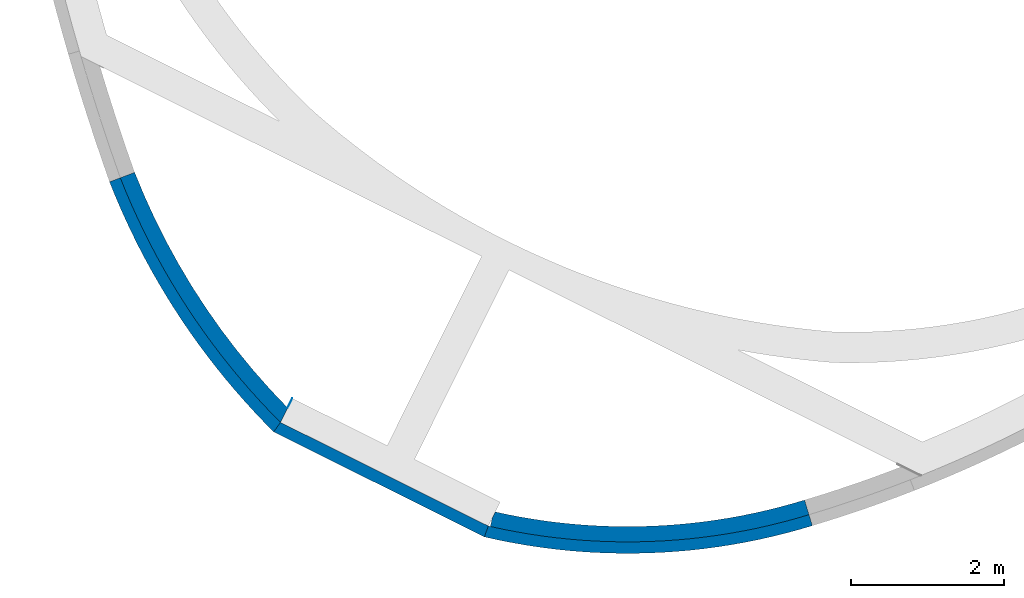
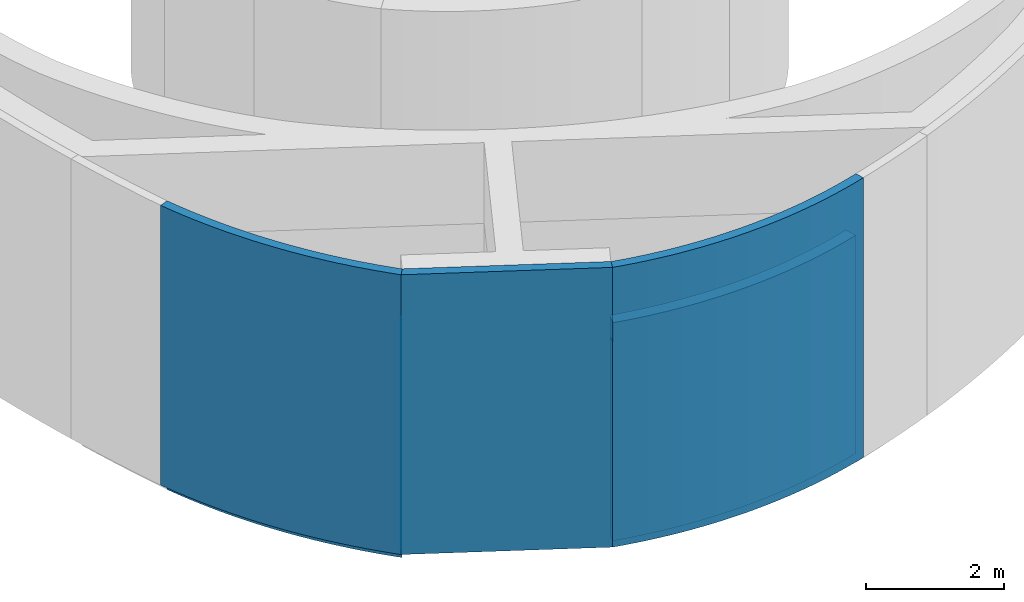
# One storey, part 3 of 47: 6 walls.
"""IFC2X3 building model written with IfcOpenShell, lengths in metres."""

from ifc_helpers import new_model, entity, si_unit, converted_unit, derived_unit, direction, frame, frame_2d, origin, place, context, subcontext, project, spatial, polyline, circle_curve, parameter, trimmed, segment, composite_curve, outline, extrude, clip, bounded_halfspace, material, layer, layer_set, layer_usage, type_object, element, save


model = new_model("IFC2X3")

# Units and contexts
model_context = context("Model", 3, precision=1e-05, world=origin(), true_north=direction((0.894925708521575, 0.446215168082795)))
context_of_model = context(None, 3, precision=1e-05, world=origin(), true_north=direction((0.894925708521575, 0.446215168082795)))
body_context = subcontext(model_context, "Body", "Model", "MODEL_VIEW")
ifc_project = project(units=[si_unit("LENGTHUNIT", "METRE"), si_unit("AREAUNIT", "SQUARE_METRE"), si_unit("VOLUMEUNIT", "CUBIC_METRE"), converted_unit("PLANEANGLEUNIT", "DEGREE", entity("IfcRatioMeasure", 0.0174532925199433), si_unit("PLANEANGLEUNIT", "RADIAN"), dimensions=[0, 0, 0, 0, 0, 0, 0]), si_unit("MASSUNIT", "GRAM", prefix="KILO"), si_unit("TIMEUNIT", "SECOND"), si_unit("FREQUENCYUNIT", "HERTZ"), si_unit("THERMODYNAMICTEMPERATUREUNIT", "DEGREE_CELSIUS"), derived_unit("THERMALTRANSMITTANCEUNIT", [(si_unit("MASSUNIT", "GRAM", prefix="KILO"), 1), (si_unit("THERMODYNAMICTEMPERATUREUNIT", "KELVIN"), -1), (si_unit("TIMEUNIT", "SECOND"), -3)]), derived_unit("VOLUMETRICFLOWRATEUNIT", [(si_unit("LENGTHUNIT", "METRE"), 3), (si_unit("TIMEUNIT", "SECOND"), -1)]), si_unit("ELECTRICCURRENTUNIT", "AMPERE"), si_unit("ELECTRICVOLTAGEUNIT", "VOLT"), si_unit("POWERUNIT", "WATT"), si_unit("FORCEUNIT", "NEWTON", prefix="KILO"), si_unit("ILLUMINANCEUNIT", "LUX"), si_unit("LUMINOUSFLUXUNIT", "LUMEN"), si_unit("LUMINOUSINTENSITYUNIT", "CANDELA"), si_unit("PRESSUREUNIT", "PASCAL")], contexts=[model_context, context_of_model])

# Site, building, storey
site_placement = place(None, frame((218.228324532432, 584.720189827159, 0.0), z_axis=(0.0, 0.0, 1.0), x_axis=(0.446215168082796, 0.894925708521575, 0.0)))
site = spatial("IfcSite", under=ifc_project, at=site_placement, Name="Default", CompositionType="ELEMENT")
building_placement = place(site_placement, origin())
building = spatial("IfcBuilding", under=site, at=building_placement, CompositionType="ELEMENT")
storey_placement = place(building_placement, frame((0.0, 0.0, 4.69)))
storey = spatial("IfcBuildingStorey", under=building, at=storey_placement, Name="1 - Piano Primo", CompositionType="ELEMENT", Elevation=4.69)

# Walls
ifc_material_1 = material(Name="Sabbia e Calcestruzzo")
ifc_layer_1 = layer(ifc_material_1, 0.2)
ifc_layer_set_1 = layer_set([ifc_layer_1], Name="Muro di base:Blocchetti - 20 cm")
ifc_layer_usage_1 = layer_usage(ifc_layer_set_1, "AXIS2", "NEGATIVE", 0.1)
wall_type_1 = type_object("IfcWallType", Name="Muro di base:Blocchetti - 20 cm", PredefinedType="STANDARD", material=ifc_layer_set_1)
wall_1_placement = place(storey_placement, frame((-84.9464963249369, -5.00357899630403, -0.16)))
element("IfcWallStandardCase", 1, at=wall_1_placement, inside=storey, type_object=wall_type_1, material=ifc_layer_usage_1, Name="Muro di base:Blocchetti - 20 cm", ObjectType="Muro di base:Blocchetti - 20 cm", context=body_context, shape_type="Clipping", body=[
    clip(clip(clip(clip(extrude(outline(composite_curve([segment(polyline([(1.89633303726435, -3.6768167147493), (2.04172577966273, -3.53947988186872)]), True, "CONTINUOUS"), segment(trimmed(circle_curve(frame_2d((7.74615288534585, 1.88586963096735), x_axis=(1.0, 0.0)), 7.8724142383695), [parameter(193.841488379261)], [parameter(223.563617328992)], True, "PARAMETER"), False, "CONTINUOUS"), segment(polyline([(0.102343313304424, 0.00249999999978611), (0.0102686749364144, 0.00249999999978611)]), True, "CONTINUOUS"), segment(polyline([(0.0102686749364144, 0.00249999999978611), (-0.0971619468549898, -0.0236549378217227)]), True, "CONTINUOUS"), segment(trimmed(circle_curve(frame_2d((7.74615288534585, 1.88586963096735), x_axis=(1.0, 0.0)), 8.0724142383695), [parameter(193.682970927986)], [parameter(223.558768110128)], True, "PARAMETER"), True, "CONTINUOUS")], self_intersect=False)), origin(), (0.0, 0.0, 1.0), 4.02), bounded_halfspace(frame((0.0102686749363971, 0.00249999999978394, 3.68), z_axis=(0.0, 0.0, -1.0), x_axis=(0.0, 1.0, 0.0)), True, frame((0.0102686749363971, 0.00249999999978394, 3.68), z_axis=(0.0, 0.0, -1.0), x_axis=(0.0, 1.0, 0.0)), composite_curve([segment(polyline([(0.0, 0.0), (0.00644802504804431, 0.0264850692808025)]), True, "CONTINUOUS"), segment(trimmed(circle_curve(frame_2d((0.574051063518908, 2.3578975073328), x_axis=(0.0, 1.0)), 7.8724142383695), [parameter(166.158511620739)], [parameter(166.317029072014)], True, "PARAMETER"), False, "CONTINUOUS"), segment(polyline([(0.0, 0.0280643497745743), (0.0, 0.0)]), True, "CONTINUOUS")], self_intersect=False))), bounded_halfspace(frame((0.102343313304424, 0.00249999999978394, 3.68), z_axis=(0.0, -1.0, 0.0), x_axis=(0.0, 0.0, -1.0)), True, frame((0.102343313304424, 0.00249999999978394, 3.68), z_axis=(0.0, -1.0, 0.0), x_axis=(0.0, 0.0, -1.0)), polyline([(0.0, 0.0), (-0.34, 0.0), (-0.34, -0.0920746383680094), (0.0, -0.0920746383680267), (0.0, 0.0)]))), bounded_halfspace(frame((0.102343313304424, 0.00249999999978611, 0.16), z_axis=(0.0, 0.0, 1.0), x_axis=(0.0, 1.0, 0.0)), True, frame((0.102343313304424, 0.00249999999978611, 0.16), z_axis=(0.0, 0.0, 1.0), x_axis=(0.0, 1.0, 0.0)), composite_curve([segment(trimmed(circle_curve(frame_2d((0.574051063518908, -2.32983315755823), x_axis=(0.0, -1.0)), 7.8724142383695), [parameter(193.682970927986)], [parameter(193.841488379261)], True, "PARAMETER"), False, "CONTINUOUS"), segment(polyline([(0.00644802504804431, 0.00157928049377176), (0.0, 0.0280643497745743)]), True, "CONTINUOUS"), segment(polyline([(0.0, 0.0280643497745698), (0.0, 0.0)]), True, "CONTINUOUS")], self_intersect=False))), bounded_halfspace(frame((0.0102686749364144, 0.00249999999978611, 0.16), z_axis=(0.0, -1.0, 0.0), x_axis=(0.0, 0.0, -1.0)), True, frame((0.0102686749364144, 0.00249999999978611, 0.16), z_axis=(0.0, -1.0, 0.0), x_axis=(0.0, 0.0, -1.0)), polyline([(0.0, 0.0), (0.16, 0.0), (0.16, 0.0920746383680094), (0.0, 0.0920746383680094), (0.0, 0.0)]))),
])
ifc_layer_usage_2 = layer_usage(ifc_layer_set_1, "AXIS2", "NEGATIVE", 0.1)
wall_2_placement = place(storey_placement, frame((-83.0516976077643, 1.25727392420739, -0.16)))
element("IfcWallStandardCase", 2, at=wall_2_placement, inside=storey, type_object=wall_type_1, material=ifc_layer_usage_2, Name="Muro di base:Blocchetti - 20 cm", ObjectType="Muro di base:Blocchetti - 20 cm", context=body_context, shape_type="SweptSolid", body=[
    extrude(outline(composite_curve([segment(polyline([(0.0720532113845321, -0.0694188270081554), (-0.074226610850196, 0.0670105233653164)]), True, "CONTINUOUS"), segment(trimmed(circle_curve(frame_2d((6.85355903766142, -6.18727667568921), x_axis=(1.0, 0.0)), 9.33329107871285), [parameter(137.924812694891)], [parameter(161.516654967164)], True, "PARAMETER"), True, "CONTINUOUS"), segment(polyline([(-1.99828215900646, -3.22835292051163), (-1.7871455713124, -3.22835292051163)]), True, "CONTINUOUS"), segment(polyline([(-1.78714557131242, -3.22835292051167), (-1.78628883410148, -3.22585224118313)]), True, "CONTINUOUS"), segment(polyline([(-1.78628883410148, -3.22585224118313), (-1.78543094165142, -3.22335074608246)]), True, "CONTINUOUS"), segment(polyline([(-1.78543094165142, -3.22335074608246), (-1.67092496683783, -2.90853021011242)]), True, "CONTINUOUS"), segment(polyline([(-1.67092496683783, -2.90853021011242), (-1.54494953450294, -2.59811804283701)]), True, "CONTINUOUS"), segment(polyline([(-1.54494953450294, -2.59811804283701), (-1.40767512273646, -2.29253456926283)]), True, "CONTINUOUS"), segment(polyline([(-1.40767512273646, -2.29253456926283), (-1.25928641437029, -1.99219090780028)]), True, "CONTINUOUS"), segment(polyline([(-1.25928641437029, -1.99219090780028), (-1.09998304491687, -1.69749112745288)]), True, "CONTINUOUS"), segment(polyline([(-1.09998304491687, -1.69749112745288), (-0.929979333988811, -1.40883170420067)]), True, "CONTINUOUS"), segment(polyline([(-0.929979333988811, -1.40883170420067), (-0.749503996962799, -1.12660098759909)]), True, "CONTINUOUS"), segment(polyline([(-0.749503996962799, -1.12660098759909), (-0.558799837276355, -0.851178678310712)]), True, "CONTINUOUS"), segment(polyline([(-0.558799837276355, -0.851178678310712), (-0.358123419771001, -0.582935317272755)]), True, "CONTINUOUS"), segment(polyline([(-0.358123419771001, -0.582935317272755), (-0.14774472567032, -0.322231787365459)]), True, "CONTINUOUS"), segment(polyline([(-0.14774472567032, -0.322231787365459), (0.0720532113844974, -0.0694188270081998)]), True, "CONTINUOUS")], self_intersect=False)), origin(), (0.0, 0.0, 1.0), 4.02),
])
ifc_material_2 = material(Name="Alluminio")
ifc_layer_2 = layer(ifc_material_2, 0.15)
ifc_layer_set_2 = layer_set([ifc_layer_2], Name="Muro di base:Rivestimento 15 cm")
ifc_layer_usage_3 = layer_usage(ifc_layer_set_2, "AXIS2", "NEGATIVE", 0.075)
wall_type_2 = type_object("IfcWallType", Name="Muro di base:Rivestimento 15 cm", PredefinedType="STANDARD", material=ifc_layer_set_2)
wall_3_placement = place(storey_placement, frame((-85.1249797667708, -5.01873922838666, 0.0), z_axis=(0.0, 0.0, 1.0), x_axis=(0.0, 1.0, 0.0)))
element("IfcWallStandardCase", 3, at=wall_3_placement, inside=storey, type_object=wall_type_2, material=ifc_layer_usage_3, Name="Muro di base:Rivestimento 15 cm", ObjectType="Muro di base:Rivestimento 15 cm", context=body_context, shape_type="SweptSolid", body=[
    extrude(outline(polyline([(3.04766023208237, -0.0750000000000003), (3.07196706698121, 0.0750000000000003), (0.0, 0.0750000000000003), (0.0176602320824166, -0.0750000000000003), (3.04766023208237, -0.0750000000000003)])), origin(), (0.0, 0.0, 1.0), 4.95),
])
ifc_layer_usage_4 = layer_usage(ifc_layer_set_2, "AXIS2", "POSITIVE", -0.075)
wall_4_placement = place(storey_placement, frame((-83.1045133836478, -8.73207807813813, 0.0)))
element("IfcWallStandardCase", 4, at=wall_4_placement, inside=storey, type_object=wall_type_2, material=ifc_layer_usage_4, Name="Muro di base:Rivestimento 15 cm", ObjectType="Muro di base:Rivestimento 15 cm", context=body_context, shape_type="SweptSolid", body=[
    extrude(outline(composite_curve([segment(polyline([(-0.0546964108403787, -0.0513181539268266), (0.0543500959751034, 0.0516823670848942)]), True, "CONTINUOUS"), segment(trimmed(circle_curve(frame_2d((5.90416994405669, 5.61436871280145), x_axis=(1.0, 0.0)), 8.0724142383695), [parameter(193.682970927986)], [parameter(223.558768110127)], True, "PARAMETER"), False, "CONTINUOUS"), segment(trimmed(circle_curve(frame_2d((5.90416994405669, 5.61436871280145), x_axis=(1.0, 0.0)), 8.0724142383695), [parameter(193.491985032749)], [parameter(193.682970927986)], True, "PARAMETER"), False, "CONTINUOUS"), segment(polyline([(-1.94546638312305, 3.73099908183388), (-2.09546638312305, 3.71333884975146)]), True, "CONTINUOUS"), segment(trimmed(circle_curve(frame_2d((5.90416994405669, 5.61436871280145), x_axis=(1.0, 0.0)), 8.2224142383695), [parameter(193.367786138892)], [parameter(223.555266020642)], True, "PARAMETER"), True, "CONTINUOUS")], self_intersect=False)), origin(), (0.0, 0.0, 1.0), 4.95),
])
ifc_layer_usage_5 = layer_usage(ifc_layer_set_2, "AXIS2", "POSITIVE", -0.075)
wall_5_placement = place(storey_placement, frame((-85.128787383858, -1.97036547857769, 0.0)))
element("IfcWallStandardCase", 5, at=wall_5_placement, inside=storey, type_object=wall_type_2, material=ifc_layer_usage_5, Name="Muro di base:Rivestimento 15 cm", ObjectType="Muro di base:Rivestimento 15 cm", context=body_context, shape_type="SweptSolid", body=[
    extrude(outline(composite_curve([segment(trimmed(circle_curve(frame_2d((8.93064881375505, -2.95963727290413), x_axis=(1.0, 0.0)), 9.48329107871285), [parameter(137.910018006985)], [parameter(161.66468649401)], True, "PARAMETER"), True, "CONTINUOUS"), segment(polyline([(-0.0711923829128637, 0.0235933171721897), (0.0788076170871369, -0.000713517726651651)]), True, "CONTINUOUS"), segment(trimmed(circle_curve(frame_2d((8.93064881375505, -2.95963727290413), x_axis=(1.0, 0.0)), 9.33329107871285), [parameter(137.924812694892)], [parameter(161.516654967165)], True, "PARAMETER"), False, "CONTINUOUS"), segment(polyline([(2.0028631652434, 3.29464992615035), (1.89316439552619, 3.39698311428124)]), True, "CONTINUOUS")], self_intersect=False)), origin(), (0.0, 0.0, 1.0), 4.95),
])
ifc_layer_3 = layer(ifc_material_1, 0.005)
ifc_layer_set_3 = layer_set([ifc_layer_3], Name="Muro di base:Malta di raccordo")
ifc_layer_usage_6 = layer_usage(ifc_layer_set_3, "AXIS2", "NEGATIVE", 0.0025)
wall_type_3 = type_object("IfcWallType", Name="Muro di base:Malta di raccordo", PredefinedType="STANDARD", material=ifc_layer_set_3)
wall_6_placement = place(storey_placement, frame((-84.8388431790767, -1.96857899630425, -0.16)))
element("IfcWallStandardCase", 6, at=wall_6_placement, inside=storey, type_object=wall_type_3, material=ifc_layer_usage_6, Name="Muro di base:Malta di raccordo", ObjectType="Muro di base:Malta di raccordo", context=body_context, shape_type="SweptSolid", body=[
    extrude(outline(composite_curve([segment(polyline([(0.138863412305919, -0.00249999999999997), (0.138863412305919, 0.00249999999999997)]), True, "CONTINUOUS"), segment(polyline([(0.138863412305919, 0.00249999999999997), (0.0017138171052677, 0.00249999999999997)]), True, "CONTINUOUS"), segment(trimmed(circle_curve(frame_2d((8.64070460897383, -2.96142375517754), x_axis=(1.0, 0.0)), 9.13329107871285), [parameter(161.063581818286)], [parameter(161.096739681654)], True, "PARAMETER"), True, "CONTINUOUS"), segment(polyline([(0.0, -0.00249999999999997), (0.138863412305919, -0.00249999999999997)]), True, "CONTINUOUS")], self_intersect=False)), origin(), (0.0, 0.0, 1.0), 4.02),
])

save(model, "model.ifc")
